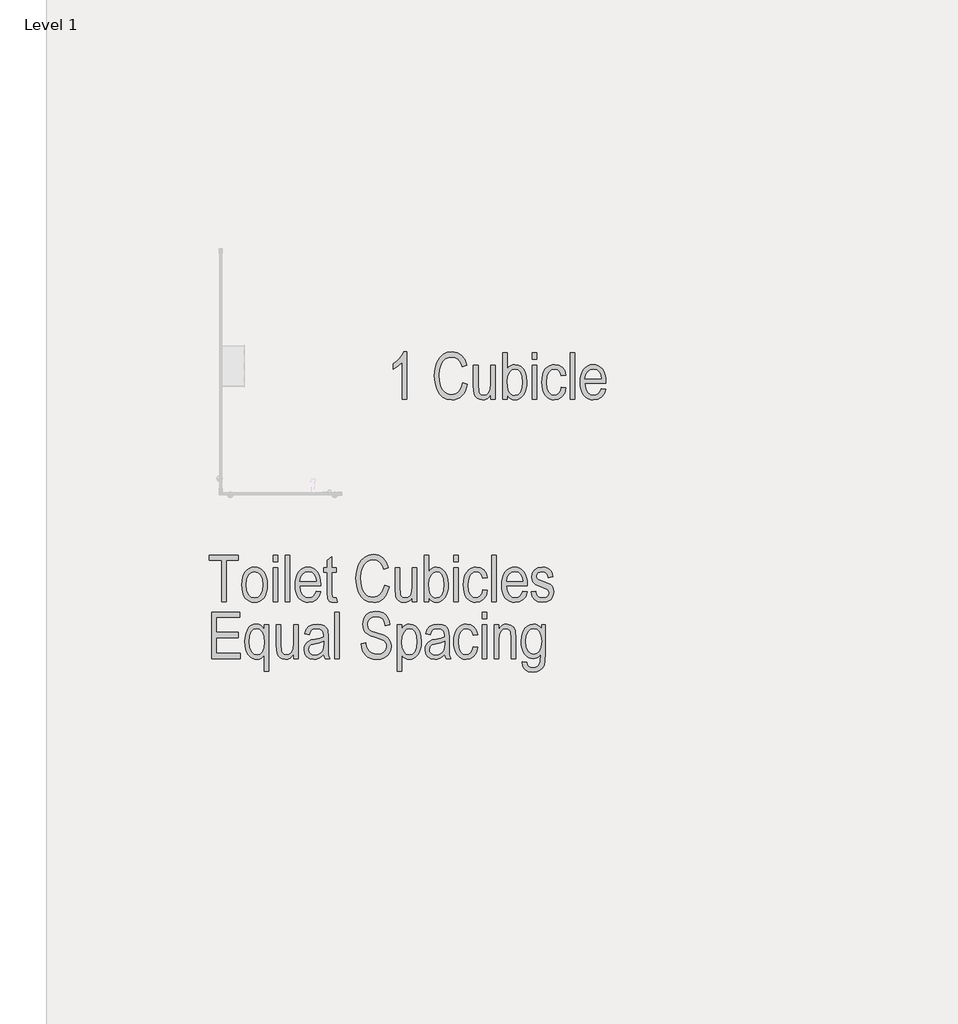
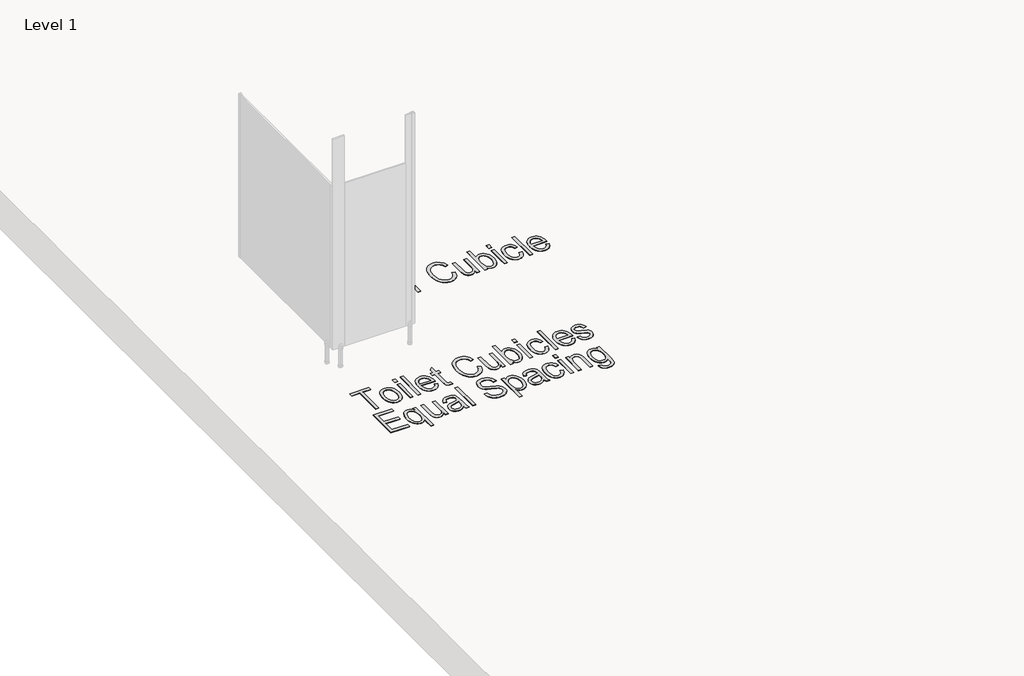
# One storey, part 12 of 21: 2 proxies.
"""IFC4 building model written with IfcOpenShell, lengths in millimetres."""

from ifc_helpers import new_model, si_unit, origin, origin_with_axes, place, context, project, spatial, polyline, outline, extrude, element, save

model = new_model("IFC4")

# Units and contexts
model_context = context("Model", 3, world=origin())
ifc_project = project(units=[si_unit("LENGTHUNIT", "METRE", prefix="MILLI")], contexts=[model_context])

# Site, building, storey
site = spatial("IfcSite", under=ifc_project)
building = spatial("IfcBuilding", under=site)
storey = spatial("IfcBuildingStorey", under=building, Name="Level 1", Elevation=0.0)

# Proxies
placement = place(None, origin())
element("IfcBuildingElementProxy", 1, Name="Arial Narrow-300mm", ObjectType="Arial Narrow-300mm", at=placement, inside=storey, context=model_context, shape_type="SweptSolid", body=[
    extrude(outline(polyline([(-26888.9565519, 22468.5008677), (-26888.9565519, 22739.2227277), (-26967.712002, 22739.2227277), (-26967.712002, 22773.6782371), (-26780.6678079, 22773.6782371), (-26780.6678079, 22739.2227277), (-26859.4232581, 22739.2227277), (-26859.4232581, 22468.5008677), (-26888.9565519, 22468.5008677)])), origin_with_axes(), (0.0, 0.0, 1.0), 5.0),
    extrude(outline(polyline([(-26756.0567297, 22579.2507195), (-26754.5762196, 22606.1426486), (-26750.1346891, 22629.5207694), (-26742.7321382, 22649.385082), (-26732.368567, 22665.7355864), (-26719.736162, 22678.5049866), (-26705.5271099, 22687.6259868), (-26689.7414105, 22693.0985869), (-26672.3790639, 22694.9227869), (-26655.2666737, 22693.0985869), (-26639.6155661, 22687.6259868), (-26625.4257414, 22678.5049866), (-26612.6971994, 22665.7355864), (-26602.1990363, 22649.5292876), (-26594.7003485, 22630.0975916), (-26590.2011357, 22607.4404984), (-26588.7013982, 22581.5580081), (-26590.174698, 22553.6566403), (-26594.5945977, 22529.5574917), (-26601.9610972, 22509.2605625), (-26612.2741965, 22492.7658526), (-26624.8705501, 22479.9964524), (-26639.0868125, 22470.8754522), (-26654.9229838, 22465.4028521), (-26672.3790639, 22463.5786521), (-26689.5851878, 22465.407659), (-26705.2867673, 22470.8946796), (-26719.4838023, 22480.039714), (-26732.176293, 22492.8427622), (-26742.623984, 22509.2173009), (-26750.0866205, 22529.0768066), (-26754.5642024, 22552.4212795), (-26756.0567297, 22579.2507195)]), holes=[polyline([(-26726.5234359, 22579.3276291), (-26722.5722042, 22541.2958224), (-26710.7185092, 22514.4159104), (-26693.019683, 22498.437937), (-26671.5330581, 22493.1119459), (-26651.1712364, 22498.4860056), (-26633.9242543, 22514.6081845), (-26622.1570825, 22541.536165), (-26618.234692, 22579.3276291), (-26622.1859237, 22617.2440714), (-26634.0396187, 22644.0855286), (-26651.7384449, 22660.063502), (-26673.2250698, 22665.3894931), (-26693.731097, 22660.0346609), (-26710.949238, 22643.9701642), (-26722.6298865, 22617.0998659), (-26726.5234359, 22579.3276291)])]), origin_with_axes(), (0.0, 0.0, 1.0), 5.0),
    extrude(outline(polyline([(-26549.3236731, 22468.5008677), (-26549.3236731, 22690.0005713), (-26519.7903793, 22690.0005713), (-26519.7903793, 22468.5008677), (-26549.3236731, 22468.5008677)])), origin_with_axes(), (0.0, 0.0, 1.0), 5.0),
    extrude(outline(polyline([(-26549.3236731, 22729.3782964), (-26549.3236731, 22773.6782371), (-26519.7903793, 22773.6782371), (-26519.7903793, 22729.3782964), (-26549.3236731, 22729.3782964)])), origin_with_axes(), (0.0, 0.0, 1.0), 5.0),
    extrude(outline(polyline([(-26470.5682229, 22468.5008677), (-26470.5682229, 22773.6782371), (-26441.0349291, 22773.6782371), (-26441.0349291, 22468.5008677), (-26470.5682229, 22468.5008677)])), origin_with_axes(), (0.0, 0.0, 1.0), 5.0),
    extrude(outline(polyline([(-26268.7573819, 22537.4118866), (-26239.2240881, 22532.489671), (-26250.4336651, 22502.5333743), (-26268.0651953, 22480.9602261), (-26291.4072648, 22467.9240456), (-26319.7484595, 22463.5786521), (-26338.2404161, 22465.407659), (-26354.8769281, 22470.8946796), (-26369.6579955, 22480.039714), (-26382.5836184, 22492.8427622), (-26393.0817815, 22509.1019364), (-26400.5804694, 22528.6153489), (-26405.0796821, 22551.3829996), (-26406.5794197, 22577.4048887), (-26405.0724718, 22604.3544999), (-26400.5516282, 22627.9056674), (-26393.016889, 22648.0583911), (-26382.468254, 22664.812671), (-26369.6123305, 22677.9858467), (-26355.1557255, 22687.3952579), (-26339.098439, 22693.0409047), (-26321.4404711, 22694.9227869), (-26304.5227583, 22693.1057972), (-26289.0711351, 22687.6548279), (-26275.0856015, 22678.5698791), (-26262.5661575, 22665.8509508), (-26252.2530583, 22649.6903171), (-26244.8865588, 22630.2802519), (-26240.4666591, 22607.6207553), (-26238.9933592, 22581.7118273), (-26239.2240881, 22571.8673961), (-26377.0461258, 22571.8673961), (-26371.4990196, 22537.6041607), (-26358.8570009, 22512.9546277), (-26340.8889911, 22498.0726163), (-26319.3639114, 22493.1119459), (-26302.5591596, 22495.8806922), (-26288.523154, 22504.1869311), (-26277.2558948, 22518.0306626), (-26268.7573819, 22537.4118866)]), holes=[polyline([(-26375.0464757, 22601.4006899), (-26268.7573819, 22601.4006899), (-26273.0643206, 22626.6654998), (-26281.6781979, 22644.6238959), (-26299.3289555, 22660.1980938), (-26321.2097422, 22665.3894931), (-26341.3023803, 22661.063327), (-26358.2032691, 22648.0848288), (-26370.0665779, 22627.7614619), (-26375.0464757, 22601.4006899)])]), origin_with_axes(), (0.0, 0.0, 1.0), 5.0),
    extrude(outline(polyline([(-26135.8575597, 22493.1119459), (-26130.9353441, 22463.5786521), (-26153.2391337, 22463.5786521), (-26167.2751392, 22465.1841404), (-26178.3116696, 22470.0006053), (-26186.3487248, 22477.6050439), (-26191.3863049, 22487.5744533), (-26194.9241473, 22531.9513036), (-26194.9241473, 22660.4672775), (-26219.5352255, 22660.4672775), (-26219.5352255, 22690.0005713), (-26194.9241473, 22690.0005713), (-26194.9241473, 22739.2227277), (-26165.3908535, 22763.8338058), (-26165.3908535, 22690.0005713), (-26135.8575597, 22690.0005713), (-26135.8575597, 22660.4672775), (-26165.3908535, 22660.4672775), (-26165.3908535, 22525.1832571), (-26162.7759265, 22500.9567271), (-26157.4307079, 22495.0731412), (-26148.7783758, 22493.1119459), (-26135.8575597, 22493.1119459)])), origin_with_axes(), (0.0, 0.0, 1.0), 5.0),
    extrude(outline(polyline([(-25820.8357591, 22576.7896117), (-25791.3024653, 22566.9451804), (-25806.1267944, 22521.4819817), (-25816.5816958, 22503.7038425), (-25829.0650884, 22489.2280101), (-25843.2981748, 22478.006416), (-25859.0021577, 22469.9909916), (-25876.177037, 22465.181737), (-25894.8228129, 22463.5786521), (-25926.3557568, 22467.8086812), (-25952.966485, 22480.4987683), (-25974.9241813, 22502.542988), (-25992.4980294, 22534.8354144), (-26004.0344723, 22575.6263537), (-26007.8799532, 22623.1661121), (-26004.044086, 22669.5906811), (-25992.5364842, 22708.2666059), (-25974.481951, 22738.8093384), (-25951.0052897, 22760.8343307), (-25923.2889857, 22774.1589222), (-25892.5155243, 22778.6004527), (-25859.636662, 22772.9764368), (-25831.756925, 22756.1043891), (-25810.1837768, 22728.3304028), (-25796.2246809, 22690.0005713), (-25825.7579747, 22680.15614), (-25836.3426611, 22708.1512415), (-25851.1766039, 22728.1477425), (-25870.2598032, 22740.1456431), (-25893.5922589, 22744.1449433), (-25917.270808, 22740.9531941), (-25937.5461064, 22731.3779465), (-25954.2547212, 22715.0442661), (-25967.2332194, 22691.5772185), (-25975.5682994, 22660.9575763), (-25978.3466594, 22623.1661121), (-25976.9334452, 22593.8539335), (-25972.6938024, 22568.444918), (-25965.6277311, 22546.9390657), (-25955.7352313, 22529.3363766), (-25943.501795, 22515.6416575), (-25929.4129141, 22505.8597153), (-25913.4685887, 22499.99055), (-25895.6688187, 22498.0341615), (-25869.8175729, 22502.9179224), (-25847.7925807, 22517.5692048), (-25830.9974425, 22542.1418282), (-25820.8357591, 22576.7896117)])), origin_with_axes(), (0.0, 0.0, 1.0), 5.0),
    extrude(outline(polyline([(-25638.7137806, 22468.5008677), (-25638.7137806, 22498.4187096), (-25649.6734013, 22483.2002187), (-25662.4019433, 22472.3078939), (-25676.8994066, 22465.7609625), (-25693.1657911, 22463.5786521), (-25711.9894204, 22466.4723765), (-25727.8520294, 22475.1535498), (-25739.84993, 22488.2666399), (-25747.0794342, 22504.4561147), (-25751.9247402, 22552.7938105), (-25751.9247402, 22690.0005713), (-25722.3914464, 22690.0005713), (-25722.3914464, 22565.406988), (-25719.0458779, 22518.9920328), (-25714.2678678, 22508.4265738), (-25706.6249744, 22500.1876309), (-25696.915135, 22494.8808671), (-25685.9362868, 22493.1119459), (-25666.3243339, 22497.7072957), (-25650.557862, 22511.4933449), (-25641.6748009, 22533.9509537), (-25638.7137806, 22569.6370171), (-25638.7137806, 22690.0005713), (-25609.1804868, 22690.0005713), (-25609.1804868, 22468.5008677), (-25638.7137806, 22468.5008677)])), origin_with_axes(), (0.0, 0.0, 1.0), 5.0),
    extrude(outline(polyline([(-25530.4250366, 22468.5008677), (-25559.9583304, 22468.5008677), (-25559.9583304, 22773.6782371), (-25530.4250366, 22773.6782371), (-25530.4250366, 22666.3893182), (-25519.8595777, 22678.9448135), (-25508.0058826, 22687.847102), (-25494.7870418, 22693.1538657), (-25480.1261456, 22694.9227869), (-25459.6393458, 22691.7406514), (-25441.0945138, 22682.1942449), (-25425.2799733, 22666.1874304), (-25412.984048, 22643.6240709), (-25405.0815846, 22615.0329199), (-25402.4474301, 22580.9427311), (-25403.9111163, 22554.4041056), (-25408.3021749, 22531.0860704), (-25415.6206058, 22510.9886255), (-25425.8664092, 22494.111771), (-25438.0637941, 22480.7535315), (-25451.2369699, 22471.2119318), (-25465.3859364, 22465.486972), (-25480.5106937, 22463.5786521), (-25495.4696147, 22465.5590748), (-25508.8134336, 22471.5003429), (-25520.4844683, 22481.3447741), (-25530.4250366, 22495.0346864), (-25530.4250366, 22468.5008677)]), holes=[polyline([(-25530.4250366, 22580.9427311), (-25528.8483894, 22550.419226), (-25524.1184478, 22528.6826448), (-25516.5043955, 22513.396858), (-25506.2754162, 22502.2257358), (-25494.1044689, 22495.3903934), (-25480.6645129, 22493.1119459), (-25462.6580483, 22498.5340741), (-25446.7858256, 22514.8004585), (-25435.6819994, 22541.8726445), (-25431.9807239, 22579.7121772), (-25435.5474075, 22618.0612362), (-25446.2474583, 22644.6623507), (-25462.1389084, 22660.2077075), (-25481.2797899, 22665.3894931), (-25499.3920052, 22659.967365), (-25515.4276609, 22643.7009805), (-25526.6756927, 22617.1671618), (-25530.4250366, 22580.9427311)])]), origin_with_axes(), (0.0, 0.0, 1.0), 5.0),
    extrude(outline(polyline([(-25367.9919207, 22468.5008677), (-25367.9919207, 22690.0005713), (-25338.4586269, 22690.0005713), (-25338.4586269, 22468.5008677), (-25367.9919207, 22468.5008677)])), origin_with_axes(), (0.0, 0.0, 1.0), 5.0),
    extrude(outline(polyline([(-25367.9919207, 22729.3782964), (-25367.9919207, 22773.6782371), (-25338.4586269, 22773.6782371), (-25338.4586269, 22729.3782964), (-25367.9919207, 22729.3782964)])), origin_with_axes(), (0.0, 0.0, 1.0), 5.0),
    extrude(outline(polyline([(-25176.0255109, 22547.2563179), (-25146.4922171, 22542.3341023), (-25155.5771659, 22508.5034835), (-25172.5261232, 22483.7674272), (-25195.4932583, 22468.6258459), (-25222.6327402, 22463.5786521), (-25239.6105387, 22465.407659), (-25255.0116899, 22470.8946796), (-25268.836194, 22480.039714), (-25281.0840509, 22492.8427622), (-25291.1111425, 22509.2317214), (-25298.2733508, 22529.1344888), (-25302.5706758, 22552.5510645), (-25304.0031174, 22579.4814484), (-25302.5274141, 22606.5223898), (-25298.1003041, 22629.9629997), (-25290.7217875, 22649.8032781), (-25280.3918643, 22666.0432249), (-25267.7450388, 22678.6780333), (-25253.4158153, 22687.7028964), (-25237.404194, 22693.1178143), (-25219.7101747, 22694.9227869), (-25193.4166986, 22690.6158483), (-25171.6032078, 22677.6950322), (-25155.5387111, 22656.1603388), (-25146.4922171, 22626.011768), (-25176.0255109, 22621.0895524), (-25182.3320997, 22640.518845), (-25192.0227117, 22654.3529628), (-25204.5397523, 22662.6303605), (-25219.3256266, 22665.3894931), (-25241.1198899, 22660.2846171), (-25258.8187161, 22644.9699892), (-25270.5570467, 22618.5419213), (-25274.4698236, 22580.0967253), (-25270.8262304, 22540.5267262), (-25259.8954507, 22513.6468143), (-25243.2733593, 22498.245663), (-25222.5558306, 22493.1119459), (-25206.0106487, 22496.4094458), (-25192.0611665, 22506.3019456), (-25181.7264364, 22523.1355385), (-25176.0255109, 22547.2563179)])), origin_with_axes(), (0.0, 0.0, 1.0), 5.0),
    extrude(outline(polyline([(-25116.9589233, 22468.5008677), (-25116.9589233, 22773.6782371), (-25087.4256295, 22773.6782371), (-25087.4256295, 22468.5008677), (-25116.9589233, 22468.5008677)])), origin_with_axes(), (0.0, 0.0, 1.0), 5.0),
    extrude(outline(polyline([(-24915.1480822, 22537.4118866), (-24885.6147884, 22532.489671), (-24896.8243654, 22502.5333743), (-24914.4558957, 22480.9602261), (-24937.7979651, 22467.9240456), (-24966.1391598, 22463.5786521), (-24984.6311164, 22465.407659), (-25001.2676285, 22470.8946796), (-25016.0486959, 22480.039714), (-25028.9743188, 22492.8427622), (-25039.4724818, 22509.1019364), (-25046.9711697, 22528.6153489), (-25051.4703824, 22551.3829996), (-25052.97012, 22577.4048887), (-25051.4631722, 22604.3544999), (-25046.9423286, 22627.9056674), (-25039.4075893, 22648.0583911), (-25028.8589544, 22664.812671), (-25016.0030308, 22677.9858467), (-25001.5464258, 22687.3952579), (-24985.4891394, 22693.0409047), (-24967.8311715, 22694.9227869), (-24950.9134586, 22693.1057972), (-24935.4618354, 22687.6548279), (-24921.4763019, 22678.5698791), (-24908.9568579, 22665.8509508), (-24898.6437586, 22649.6903171), (-24891.2772592, 22630.2802519), (-24886.8573595, 22607.6207553), (-24885.3840596, 22581.7118273), (-24885.6147884, 22571.8673961), (-25023.4368262, 22571.8673961), (-25017.8897199, 22537.6041607), (-25005.2477013, 22512.9546277), (-24987.2796914, 22498.0726163), (-24965.7546117, 22493.1119459), (-24948.9498599, 22495.8806922), (-24934.9138544, 22504.1869311), (-24923.6465952, 22518.0306626), (-24915.1480822, 22537.4118866)]), holes=[polyline([(-25021.4371761, 22601.4006899), (-24915.1480822, 22601.4006899), (-24919.4550209, 22626.6654998), (-24928.0688983, 22644.6238959), (-24945.7196559, 22660.1980938), (-24967.6004426, 22665.3894931), (-24987.6930806, 22661.063327), (-25004.5939695, 22648.0848288), (-25016.4572783, 22627.7614619), (-25021.4371761, 22601.4006899)])]), origin_with_axes(), (0.0, 0.0, 1.0), 5.0),
    extrude(outline(polyline([(-24861.0037103, 22532.489671), (-24831.4704164, 22537.4118866), (-24826.4328364, 22517.8383885), (-24816.7037695, 22504.0331118), (-24802.667764, 22495.8422374), (-24784.7093679, 22493.1119459), (-24766.9817007, 22495.5345989), (-24753.791701, 22502.8025579), (-24745.6008265, 22513.7814061), (-24742.870535, 22527.3367265), (-24745.0432318, 22538.7385776), (-24751.561322, 22547.2563179), (-24782.1713505, 22559.9464051), (-24830.0860433, 22579.2507195), (-24841.0745052, 22588.4125779), (-24849.2749933, 22600.2085908), (-24854.3798693, 22614.2349826), (-24856.0814946, 22630.0879779), (-24851.5726682, 22656.218021), (-24838.0461889, 22676.925936), (-24816.5403366, 22690.4235742), (-24788.0933912, 22694.9227869), (-24769.231307, 22693.048115), (-24752.7918759, 22687.4240991), (-24739.3423062, 22678.6275613), (-24729.4498065, 22667.235324), (-24722.5952366, 22651.8149453), (-24718.2594568, 22630.9339837), (-24747.7927507, 22626.011768), (-24751.8064714, 22643.2395228), (-24759.6945142, 22655.5450619), (-24771.4568791, 22662.9283853), (-24787.0935661, 22665.3894931), (-24804.4751401, 22663.293706), (-24816.7806792, 22657.0063446), (-24824.1063204, 22647.4503244), (-24826.5482008, 22635.5485608), (-24824.18323, 22624.0698002), (-24817.0883176, 22615.321331), (-24783.3249948, 22601.4006899), (-24735.0642087, 22582.1348302), (-24725.9311914, 22573.7324543), (-24719.0670078, 22562.7536062), (-24714.7696829, 22549.3424913), (-24713.3372412, 22533.6433153), (-24718.2690705, 22505.321348), (-24733.0645586, 22482.9598762), (-24756.3777869, 22468.4239581), (-24786.8628373, 22463.5786521), (-24815.4636019, 22467.8855908), (-24837.3540023, 22480.8064068), (-24852.5340384, 22502.3411002), (-24861.0037103, 22532.489671)])), origin_with_axes(), (0.0, 0.0, 1.0), 5.0),
    extrude(outline(polyline([(-26952.9453551, 22095.3986553), (-26952.9453551, 22400.5760247), (-26770.8233766, 22400.5760247), (-26770.8233766, 22366.1205153), (-26923.4120613, 22366.1205153), (-26923.4120613, 22267.6762026), (-26780.6678079, 22267.6762026), (-26780.6678079, 22233.2206931), (-26923.4120613, 22233.2206931), (-26923.4120613, 22129.8541648), (-26765.901161, 22129.8541648), (-26765.901161, 22095.3986553), (-26952.9453551, 22095.3986553)])), origin_with_axes(), (0.0, 0.0, 1.0), 5.0),
    extrude(outline(polyline([(-26608.3902607, 22011.7209895), (-26608.3902607, 22117.7793545), (-26617.2252532, 22106.7716653), (-26628.9635839, 22098.0520372), (-26642.1631973, 22092.3703391), (-26655.3820381, 22090.4764397), (-26671.2855053, 22092.403987), (-26686.0785899, 22098.186629), (-26699.7612918, 22107.8243657), (-26712.3336112, 22121.317197), (-26722.8485982, 22138.3142229), (-26730.3593032, 22158.4645431), (-26734.8657262, 22181.7681578), (-26736.3678672, 22208.2250668), (-26731.4264242, 22252.8999419), (-26716.602095, 22289.40317), (-26705.685736, 22303.5857845), (-26692.7024308, 22313.7162234), (-26677.6521797, 22319.7944868), (-26660.5349826, 22321.8205745), (-26644.7685106, 22319.6574915), (-26630.8478695, 22313.1682424), (-26618.7346045, 22302.3528272), (-26608.3902607, 22287.2112459), (-26608.3902607, 22316.8983589), (-26578.8569669, 22316.8983589), (-26578.8569669, 22011.7209895), (-26608.3902607, 22011.7209895)]), holes=[polyline([(-26706.8345734, 22206.1485071), (-26703.0756157, 22168.2224511), (-26691.7987428, 22141.3521529), (-26675.2920158, 22125.3453383), (-26655.8434958, 22120.0097335), (-26638.2792615, 22125.1338369), (-26622.8108143, 22140.506147), (-26611.9953991, 22166.0112995), (-26608.3902607, 22201.53393), (-26612.1780594, 22241.623069), (-26623.5414557, 22269.9065815), (-26640.1347061, 22286.6921059), (-26659.6120671, 22292.2872807), (-26677.3878029, 22287.0574266), (-26692.7216583, 22271.3678643), (-26703.3063446, 22244.6033168), (-26706.8345734, 22206.1485071)])]), origin_with_axes(), (0.0, 0.0, 1.0), 5.0),
    extrude(outline(polyline([(-26416.4238509, 22095.3986553), (-26416.4238509, 22125.3164972), (-26427.3834717, 22110.0980063), (-26440.1120137, 22099.2056815), (-26454.6094769, 22092.6587501), (-26470.8758614, 22090.4764397), (-26489.6994907, 22093.3701641), (-26505.5620997, 22102.0513374), (-26517.5600003, 22115.1644275), (-26524.7895045, 22131.3539023), (-26529.6348105, 22179.6915981), (-26529.6348105, 22316.8983589), (-26500.1015167, 22316.8983589), (-26500.1015167, 22192.3047756), (-26496.7559483, 22145.8898204), (-26491.9779382, 22135.3243614), (-26484.3350448, 22127.0854185), (-26474.6252053, 22121.7786547), (-26463.6463572, 22120.0097335), (-26444.0344043, 22124.6050833), (-26428.2679323, 22138.3911325), (-26419.3848713, 22160.8487413), (-26416.4238509, 22196.5348047), (-26416.4238509, 22316.8983589), (-26386.8905571, 22316.8983589), (-26386.8905571, 22095.3986553), (-26416.4238509, 22095.3986553)])), origin_with_axes(), (0.0, 0.0, 1.0), 5.0),
    extrude(outline(polyline([(-26219.5352255, 22122.932299), (-26235.1574919, 22108.7809291), (-26251.4142627, 22098.6288593), (-26268.3055379, 22092.5145446), (-26285.8313174, 22090.4764397), (-26311.1345821, 22094.764151), (-26330.746535, 22107.6272848), (-26343.3212578, 22127.7391502), (-26347.512832, 22153.7730564), (-26345.5035682, 22171.9044991), (-26339.4757768, 22187.8440177), (-26329.9678251, 22201.0628585), (-26317.5180805, 22211.0322679), (-26300.0019147, 22218.2906133), (-26275.2946995, 22223.3762618), (-26242.3581551, 22230.1827631), (-26219.5352255, 22238.1429087), (-26219.5352255, 22247.6027919), (-26221.6310127, 22266.7148323), (-26227.918374, 22279.1357358), (-26242.8388402, 22288.9993945), (-26264.0658951, 22292.2872807), (-26283.2932999, 22290.2203347), (-26296.9832122, 22284.0194967), (-26306.4623227, 22272.1081194), (-26313.0573226, 22252.9095556), (-26342.5906164, 22257.8317713), (-26332.8038673, 22286.7401744), (-26316.3644362, 22306.5540151), (-26292.3494076, 22318.0039347), (-26259.835866, 22321.8205745), (-26234.2441902, 22319.1383516), (-26214.8437387, 22311.0916826), (-26201.5479883, 22299.0841683), (-26194.2704156, 22284.5194092), (-26190.0019317, 22238.2198184), (-26190.0019317, 22188.1516562), (-26188.0022816, 22121.9709288), (-26180.1575004, 22095.3986553), (-26209.6907943, 22095.3986553), (-26215.9204734, 22108.0502877), (-26219.5352255, 22122.932299)]), holes=[polyline([(-26219.5352255, 22208.6096149), (-26241.6275137, 22200.5725597), (-26272.372134, 22193.842968), (-26300.8671479, 22186.1135513), (-26313.4803255, 22173.8080122), (-26317.9795382, 22155.465068), (-26315.403066, 22140.9387637), (-26307.6736492, 22129.6618907), (-26295.3873376, 22122.4227728), (-26279.1401805, 22120.0097335), (-26262.6238397, 22122.1920439), (-26247.6841462, 22128.7389753), (-26235.3209249, 22138.9294998), (-26226.5340009, 22152.0425899), (-26221.2849194, 22169.9529175), (-26219.5352255, 22194.5351546), (-26219.5352255, 22208.6096149)])]), origin_with_axes(), (0.0, 0.0, 1.0), 5.0),
    extrude(outline(polyline([(-26145.701991, 22095.3986553), (-26145.701991, 22400.5760247), (-26116.1686972, 22400.5760247), (-26116.1686972, 22095.3986553), (-26145.701991, 22095.3986553)])), origin_with_axes(), (0.0, 0.0, 1.0), 5.0),
    extrude(outline(polyline([(-25973.4244438, 22193.842968), (-25943.89115, 22198.7651837), (-25939.7476442, 22175.2404539), (-25932.3931619, 22157.5800825), (-25921.500837, 22144.2939458), (-25906.7438038, 22133.8919198), (-25889.0161366, 22127.1719418), (-25869.2119096, 22124.9319491), (-25842.5723402, 22128.5370875), (-25822.6431351, 22139.3525028), (-25810.2126179, 22155.9361394), (-25806.0691122, 22176.8459422), (-25807.5784635, 22189.5168019), (-25812.1065173, 22200.4571953), (-25819.6821148, 22209.6190537), (-25830.3340971, 22216.9543086), (-25882.9787315, 22235.7587105), (-25913.5599189, 22246.7183313), (-25933.3160773, 22257.4472232), (-25946.0638467, 22269.4931923), (-25955.6198669, 22284.4040447), (-25961.5899761, 22301.8144598), (-25963.5800125, 22321.3591168), (-25957.7541088, 22355.0455301), (-25950.4717293, 22369.3507193), (-25940.2763979, 22381.9638968), (-25927.6151518, 22392.2601721), (-25912.9350282, 22399.6146545), (-25896.2360271, 22404.0273439), (-25877.5181485, 22405.4982403), (-25852.0706782, 22402.8160174), (-25830.0264586, 22394.7693484), (-25811.9623118, 22381.7139406), (-25798.4550599, 22364.0055007), (-25789.8219551, 22342.2112374), (-25786.3802496, 22316.8983589), (-25815.9135435, 22311.9761433), (-25821.5760142, 22338.1542549), (-25833.6412107, 22356.5452676), (-25851.9937686, 22367.4183651), (-25876.5183235, 22371.0427309), (-25901.2543798, 22367.4952747), (-25919.3185266, 22356.8529061), (-25930.3646707, 22340.5769079), (-25934.0467187, 22320.1285629), (-25931.6625205, 22301.5741173), (-25924.5099259, 22287.7496132), (-25907.7820837, 22276.4631266), (-25876.5183235, 22265.6765524), (-25823.5275958, 22247.6797015), (-25803.0888644, 22234.3647237), (-25788.3798997, 22218.1079529), (-25779.4968387, 22198.6786603), (-25776.5358184, 22175.8461171), (-25779.5737483, 22152.5521162), (-25788.6875382, 22131.430812), (-25803.0215685, 22113.789668), (-25821.7202197, 22100.9361479), (-25844.7258096, 22093.0913667), (-25871.9806559, 22090.4764397), (-25893.7725159, 22092.2189233), (-25913.233053, 22097.4463739), (-25930.3622672, 22106.1587918), (-25945.1601587, 22118.3561767), (-25957.150849, 22133.5290025), (-25965.85846, 22151.167743), (-25971.2829916, 22171.2723982), (-25973.4244438, 22193.842968)])), origin_with_axes(), (0.0, 0.0, 1.0), 5.0),
    extrude(outline(polyline([(-25737.1580933, 22011.7209895), (-25737.1580933, 22316.8983589), (-25707.6247995, 22316.8983589), (-25707.6247995, 22287.9034324), (-25696.7517021, 22303.391107), (-25684.7441877, 22313.8604289), (-25671.2369359, 22319.8305381), (-25655.8646257, 22321.8205745), (-25635.6758506, 22318.638439), (-25617.5636353, 22309.0920325), (-25602.1528703, 22293.0659906), (-25590.0684464, 22270.4449488), (-25582.2525063, 22241.8730253), (-25579.647193, 22207.994338), (-25581.1373168, 22181.3884166), (-25585.6076885, 22158.0223128), (-25593.0583078, 22137.8960268), (-25603.489175, 22121.0095586), (-25615.9293059, 22107.651319), (-25629.4077167, 22098.1097194), (-25643.9244073, 22092.3847596), (-25659.4793778, 22090.4764397), (-25673.3134956, 22092.2261335), (-25686.2054705, 22097.475215), (-25697.7707545, 22105.9160458), (-25707.6247995, 22117.2409872), (-25707.6247995, 22011.7209895), (-25737.1580933, 22011.7209895)]), holes=[polyline([(-25707.6247995, 22204.148857), (-25704.0292748, 22166.6169628), (-25693.2427007, 22140.4676922), (-25677.3416369, 22125.1242232), (-25658.4026431, 22120.0097335), (-25639.992403, 22125.3068835), (-25623.9855885, 22141.1983336), (-25612.8817622, 22168.1647689), (-25609.1804868, 22206.6868744), (-25612.7760115, 22244.6417716), (-25623.5625856, 22271.2909547), (-25639.5213316, 22287.0381992), (-25658.633372, 22292.2872807), (-25676.3418118, 22286.6440374), (-25692.3966949, 22269.7143075), (-25703.8177733, 22242.0364582), (-25707.6247995, 22204.148857)])]), origin_with_axes(), (0.0, 0.0, 1.0), 5.0),
    extrude(outline(polyline([(-25427.0585083, 22122.932299), (-25442.6807747, 22108.7809291), (-25458.9375455, 22098.6288593), (-25475.8288206, 22092.5145446), (-25493.3546001, 22090.4764397), (-25518.6578649, 22094.764151), (-25538.2698178, 22107.6272848), (-25550.8445405, 22127.7391502), (-25555.0361148, 22153.7730564), (-25553.026851, 22171.9044991), (-25546.9990596, 22187.8440177), (-25537.4911079, 22201.0628585), (-25525.0413633, 22211.0322679), (-25507.5251975, 22218.2906133), (-25482.8179823, 22223.3762618), (-25449.8814378, 22230.1827631), (-25427.0585083, 22238.1429087), (-25427.0585083, 22247.6027919), (-25429.1542954, 22266.7148323), (-25435.4416568, 22279.1357358), (-25450.3621229, 22288.9993945), (-25471.5891779, 22292.2872807), (-25490.8165827, 22290.2203347), (-25504.5064949, 22284.0194967), (-25513.9856055, 22272.1081194), (-25520.5806054, 22252.9095556), (-25550.1138992, 22257.8317713), (-25540.3271501, 22286.7401744), (-25523.887719, 22306.5540151), (-25499.8726904, 22318.0039347), (-25467.3591488, 22321.8205745), (-25441.767473, 22319.1383516), (-25422.3670215, 22311.0916826), (-25409.0712711, 22299.0841683), (-25401.7936983, 22284.5194092), (-25397.5252145, 22238.2198184), (-25397.5252145, 22188.1516562), (-25395.5255644, 22121.9709288), (-25387.6807832, 22095.3986553), (-25417.214077, 22095.3986553), (-25423.4437562, 22108.0502877), (-25427.0585083, 22122.932299)]), holes=[polyline([(-25427.0585083, 22208.6096149), (-25449.1507964, 22200.5725597), (-25479.8954167, 22193.842968), (-25508.3904307, 22186.1135513), (-25521.0036083, 22173.8080122), (-25525.502821, 22155.465068), (-25522.9263487, 22140.9387637), (-25515.196932, 22129.6618907), (-25502.9106203, 22122.4227728), (-25486.6634632, 22120.0097335), (-25470.1471225, 22122.1920439), (-25455.2074289, 22128.7389753), (-25442.8442076, 22138.9294998), (-25434.0572836, 22152.0425899), (-25428.8082021, 22169.9529175), (-25427.0585083, 22194.5351546), (-25427.0585083, 22208.6096149)])]), origin_with_axes(), (0.0, 0.0, 1.0), 5.0),
    extrude(outline(polyline([(-25240.0143142, 22174.1541055), (-25210.4810203, 22169.2318899), (-25219.5659691, 22135.4012711), (-25236.5149265, 22110.6652148), (-25259.4820615, 22095.5236335), (-25286.6215434, 22090.4764397), (-25303.5993419, 22092.3054466), (-25319.0004932, 22097.7924672), (-25332.8249972, 22106.9375016), (-25345.0728541, 22119.7405498), (-25355.0999457, 22136.129509), (-25362.262154, 22156.0322764), (-25366.559479, 22179.4488521), (-25367.9919207, 22206.379236), (-25366.5162173, 22233.4201774), (-25362.0891074, 22256.8607873), (-25354.7105908, 22276.7010657), (-25344.3806675, 22292.9410125), (-25331.733842, 22305.5758209), (-25317.4046186, 22314.600684), (-25301.3929972, 22320.0156019), (-25283.6989779, 22321.8205745), (-25257.4055018, 22317.5136359), (-25235.592011, 22304.5928198), (-25219.5275143, 22283.0581264), (-25210.4810203, 22252.9095556), (-25240.0143142, 22247.98734), (-25246.3209029, 22267.4166326), (-25256.011515, 22281.2507504), (-25268.5285555, 22289.5281481), (-25283.3144298, 22292.2872807), (-25305.1086932, 22287.1824047), (-25322.8075193, 22271.8677768), (-25334.54585, 22245.4397089), (-25338.4586269, 22206.9945129), (-25334.8150336, 22167.4245138), (-25323.884254, 22140.5446019), (-25307.2621625, 22125.1434506), (-25286.5446338, 22120.0097335), (-25269.999452, 22123.3072334), (-25256.0499698, 22133.1997332), (-25245.7152397, 22150.0333261), (-25240.0143142, 22174.1541055)])), origin_with_axes(), (0.0, 0.0, 1.0), 5.0),
    extrude(outline(polyline([(-25180.9477265, 22356.276084), (-25180.9477265, 22400.5760247), (-25151.4144327, 22400.5760247), (-25151.4144327, 22356.276084), (-25180.9477265, 22356.276084)])), origin_with_axes(), (0.0, 0.0, 1.0), 5.0),
    extrude(outline(polyline([(-25180.9477265, 22095.3986553), (-25180.9477265, 22316.8983589), (-25151.4144327, 22316.8983589), (-25151.4144327, 22095.3986553), (-25180.9477265, 22095.3986553)])), origin_with_axes(), (0.0, 0.0, 1.0), 5.0),
    extrude(outline(polyline([(-25102.1922764, 22095.3986553), (-25102.1922764, 22316.8983589), (-25072.6589826, 22316.8983589), (-25072.6589826, 22288.2879805), (-25062.1415921, 22303.0065589), (-25049.5091872, 22313.4758808), (-25034.8194499, 22319.7344011), (-25018.1300625, 22321.8205745), (-24992.6345237, 22316.0908079), (-24973.7147573, 22301.0934321), (-24962.9858654, 22277.0207213), (-24959.448023, 22231.5286815), (-24959.448023, 22095.3986553), (-24988.9813168, 22095.3986553), (-24988.9813168, 22232.1439584), (-24993.0190718, 22268.3683891), (-24998.2008574, 22278.5204589), (-25005.6707042, 22286.0576016), (-25014.9767681, 22290.7298609), (-25025.6672052, 22292.2872807), (-25044.9522922, 22288.1053202), (-25059.8919858, 22275.5594385), (-25069.4672334, 22252.8614871), (-25072.6589826, 22218.2233173), (-25072.6589826, 22095.3986553), (-25102.1922764, 22095.3986553)])), origin_with_axes(), (0.0, 0.0, 1.0), 5.0),
    extrude(outline(polyline([(-24920.0702979, 22075.7097928), (-24890.5370041, 22070.7875772), (-24886.3454298, 22055.5690862), (-24877.9238265, 22044.8305806), (-24865.3491037, 22038.4566959), (-24848.6981712, 22036.3320677), (-24830.3936818, 22038.7258796), (-24816.2423118, 22045.9073153), (-24806.0902421, 22057.8186926), (-24799.7836533, 22074.4023293), (-24797.014907, 22122.932299), (-24807.5611385, 22110.9343984), (-24819.3571514, 22102.3205211), (-24832.4606278, 22097.1291218), (-24846.9292499, 22095.3986553), (-24862.3928903, 22097.1195081), (-24876.4817711, 22102.2820663), (-24889.1958926, 22110.8863299), (-24900.5352546, 22122.932299), (-24911.2353054, 22140.1167921), (-24918.8781988, 22159.9835081), (-24923.4639348, 22182.5324471), (-24924.9925135, 22207.7636091), (-24922.2526083, 22241.2000661), (-24914.0328928, 22270.1373104), (-24901.362033, 22293.2774921), (-24885.2686951, 22309.3227614), (-24866.3969973, 22318.6961213), (-24845.3910575, 22321.8205745), (-24829.8745418, 22319.9362889), (-24815.7808541, 22314.2834318), (-24803.1676765, 22304.8620035), (-24792.0926914, 22291.6720038), (-24792.0926914, 22316.8983589), (-24767.4816132, 22316.8983589), (-24767.4816132, 22126.2394127), (-24769.5485592, 22082.6316585), (-24775.7493973, 22053.636732), (-24786.6513358, 22034.2266669), (-24802.8215833, 22019.3734967), (-24823.539112, 22009.9424546), (-24848.0828942, 22006.7987739), (-24879.0294023, 22011.3652825), (-24901.8811729, 22025.0648085), (-24915.8306551, 22046.8590718), (-24920.0702979, 22075.7097928)]), holes=[polyline([(-24895.4592197, 22210.0708977), (-24891.7291032, 22171.6929977), (-24880.5387536, 22145.3129982), (-24863.9455032, 22130.0272114), (-24844.0066844, 22124.9319491), (-24824.0101834, 22129.9214607), (-24807.2438864, 22144.8899953), (-24795.8804901, 22170.7412411), (-24792.0926914, 22208.3788861), (-24795.9862408, 22245.4493226), (-24807.6668893, 22271.5985931), (-24824.9042577, 22287.1151088), (-24845.4679672, 22292.2872807), (-24864.1666184, 22287.1151088), (-24880.4233891, 22271.5985931), (-24891.7002621, 22245.8723255), (-24895.4592197, 22210.0708977)])]), origin_with_axes(), (0.0, 0.0, 1.0), 5.0),
])
element("IfcBuildingElementProxy", 2, Name="Arial Narrow-300mm", ObjectType="Arial Narrow-300mm", at=placement, inside=storey, context=model_context, shape_type="SweptSolid", body=[
    extrude(outline(polyline([(-25675.9687123, 23796.2300728), (-25705.5020061, 23796.2300728), (-25705.5020061, 24037.418639), (-25732.9587402, 24012.4230127), (-25764.5685937, 23993.1186982), (-25764.5685937, 24027.5742077), (-25741.6014586, 24044.2251403), (-25721.4607521, 24064.1831865), (-25705.5116198, 24085.5256058), (-25695.1192075, 24106.3296579), (-25675.9687123, 24106.3296579), (-25675.9687123, 23796.2300728)])), origin_with_axes(), (0.0, 0.0, 1.0), 5.0),
    extrude(outline(polyline([(-25306.8025396, 23904.5188168), (-25277.2692458, 23894.6743855), (-25292.0935749, 23849.2111868), (-25302.5484763, 23831.4330477), (-25315.0318689, 23816.9572152), (-25329.2649553, 23805.7356211), (-25344.9689382, 23797.7201967), (-25362.1438176, 23792.9109421), (-25380.7895934, 23791.3078572), (-25412.3225373, 23795.5378863), (-25438.9332656, 23808.2279735), (-25460.8909619, 23830.2721931), (-25478.4648099, 23862.5646195), (-25490.0012528, 23903.3555588), (-25493.8467338, 23950.8953173), (-25490.0108665, 23997.3198862), (-25478.5032647, 24035.995811), (-25460.4487316, 24066.5385436), (-25436.9720703, 24088.5635358), (-25409.2557662, 24101.8881273), (-25378.4823048, 24106.3296579), (-25345.6034426, 24100.7056419), (-25317.7237056, 24083.8335942), (-25296.1505574, 24056.0596079), (-25282.1914615, 24017.7297764), (-25311.7247553, 24007.8853452), (-25322.3094416, 24035.8804466), (-25337.1433844, 24055.8769476), (-25356.2265837, 24067.8748482), (-25379.5590395, 24071.8741484), (-25403.2375885, 24068.6823992), (-25423.5128869, 24059.1071516), (-25440.2215017, 24042.7734712), (-25453.2, 24019.3064236), (-25461.53508, 23988.6867814), (-25464.31344, 23950.8953173), (-25462.9002257, 23921.5831386), (-25458.6605829, 23896.1741231), (-25451.5945117, 23874.6682708), (-25441.7020119, 23857.0655817), (-25429.4685756, 23843.3708626), (-25415.3796947, 23833.5889204), (-25399.4353692, 23827.7197551), (-25381.6355992, 23825.7633667), (-25355.7843534, 23830.6471275), (-25333.7593612, 23845.29841), (-25316.9642231, 23869.8710333), (-25306.8025396, 23904.5188168)])), origin_with_axes(), (0.0, 0.0, 1.0), 5.0),
    extrude(outline(polyline([(-25124.6805611, 23796.2300728), (-25124.6805611, 23826.1479148), (-25135.6401819, 23810.9294238), (-25148.3687239, 23800.037099), (-25162.8661871, 23793.4901677), (-25179.1325716, 23791.3078572), (-25197.9562009, 23794.2015816), (-25213.8188099, 23802.8827549), (-25225.8167105, 23815.995845), (-25233.0462147, 23832.1853199), (-25237.8915207, 23880.5230156), (-25237.8915207, 24017.7297764), (-25208.3582269, 24017.7297764), (-25208.3582269, 23893.1361932), (-25205.0126585, 23846.7212379), (-25200.2346484, 23836.155779), (-25192.591755, 23827.916836), (-25182.8819155, 23822.6100723), (-25171.9030674, 23820.841151), (-25152.2911145, 23825.4365008), (-25136.5246425, 23839.22255), (-25127.6415815, 23861.6801589), (-25124.6805611, 23897.3662222), (-25124.6805611, 24017.7297764), (-25095.1472673, 24017.7297764), (-25095.1472673, 23796.2300728), (-25124.6805611, 23796.2300728)])), origin_with_axes(), (0.0, 0.0, 1.0), 5.0),
    extrude(outline(polyline([(-25016.3918172, 23796.2300728), (-25045.925111, 23796.2300728), (-25045.925111, 24101.4074422), (-25016.3918172, 24101.4074422), (-25016.3918172, 23994.1185233), (-25005.8263582, 24006.6740186), (-24993.9726631, 24015.5763071), (-24980.7538223, 24020.8830708), (-24966.0929261, 24022.6519921), (-24945.6061263, 24019.4698566), (-24927.0612944, 24009.9234501), (-24911.2467539, 23993.9166355), (-24898.9508285, 23971.353276), (-24891.0483651, 23942.762125), (-24888.4142107, 23908.6719363), (-24889.8778968, 23882.1333108), (-24894.2689554, 23858.8152755), (-24901.5873864, 23838.7178307), (-24911.8331897, 23821.8409761), (-24924.0305747, 23808.4827366), (-24937.2037504, 23798.9411369), (-24951.3527169, 23793.2161771), (-24966.4774742, 23791.3078572), (-24981.4363952, 23793.2882799), (-24994.7802141, 23799.229548), (-25006.4512489, 23809.0739793), (-25016.3918172, 23822.7638915), (-25016.3918172, 23796.2300728)]), holes=[polyline([(-25016.3918172, 23908.6719363), (-25014.81517, 23878.1484311), (-25010.0852284, 23856.4118499), (-25002.4711761, 23841.1260631), (-24992.2421967, 23829.9549409), (-24980.0712495, 23823.1195985), (-24966.6312935, 23820.841151), (-24948.6248289, 23826.2632792), (-24932.7526062, 23842.5296637), (-24921.6487799, 23869.6018497), (-24917.9475045, 23907.4413824), (-24921.5141881, 23945.7904413), (-24932.2142388, 23972.3915558), (-24948.1056889, 23987.9369126), (-24967.2465704, 23993.1186982), (-24985.3587858, 23987.6965701), (-25001.3944414, 23971.4301856), (-25012.6424732, 23944.8963669), (-25016.3918172, 23908.6719363)])]), origin_with_axes(), (0.0, 0.0, 1.0), 5.0),
    extrude(outline(polyline([(-24853.9587012, 24057.1075015), (-24853.9587012, 24101.4074422), (-24824.4254074, 24101.4074422), (-24824.4254074, 24057.1075015), (-24853.9587012, 24057.1075015)])), origin_with_axes(), (0.0, 0.0, 1.0), 5.0),
    extrude(outline(polyline([(-24853.9587012, 23796.2300728), (-24853.9587012, 24017.7297764), (-24824.4254074, 24017.7297764), (-24824.4254074, 23796.2300728), (-24853.9587012, 23796.2300728)])), origin_with_axes(), (0.0, 0.0, 1.0), 5.0),
    extrude(outline(polyline([(-24661.9922914, 23874.985523), (-24632.4589976, 23870.0633074), (-24641.5439464, 23836.2326886), (-24658.4929038, 23811.4966323), (-24681.4600388, 23796.355051), (-24708.5995207, 23791.3078572), (-24725.5773192, 23793.1368641), (-24740.9784705, 23798.6238847), (-24754.8029745, 23807.7689192), (-24767.0508314, 23820.5719674), (-24777.077923, 23836.9609265), (-24784.2401313, 23856.863694), (-24788.5374563, 23880.2802696), (-24789.969898, 23907.2106535), (-24788.4941946, 23934.251595), (-24784.0670847, 23957.6922049), (-24776.6885681, 23977.5324832), (-24766.3586448, 23993.77243), (-24753.7118193, 24006.4072384), (-24739.3825959, 24015.4321015), (-24723.3709745, 24020.8470194), (-24705.6769552, 24022.6519921), (-24679.3834791, 24018.3450534), (-24657.5699883, 24005.4242373), (-24641.5054916, 23983.8895439), (-24632.4589976, 23953.7409732), (-24661.9922914, 23948.8187575), (-24668.2988802, 23968.2480501), (-24677.9894923, 23982.0821679), (-24690.5065328, 23990.3595657), (-24705.2924071, 23993.1186982), (-24727.0866705, 23988.0138223), (-24744.7854966, 23972.6991943), (-24756.5238273, 23946.2711264), (-24760.4366041, 23907.8259304), (-24756.7930109, 23868.2559313), (-24745.8622313, 23841.3760194), (-24729.2401398, 23825.9748681), (-24708.5226111, 23820.841151), (-24691.9774293, 23824.1386509), (-24678.0279471, 23834.0311507), (-24667.693217, 23850.8647437), (-24661.9922914, 23874.985523)])), origin_with_axes(), (0.0, 0.0, 1.0), 5.0),
    extrude(outline(polyline([(-24602.9257038, 23796.2300728), (-24602.9257038, 24101.4074422), (-24573.39241, 24101.4074422), (-24573.39241, 23796.2300728), (-24602.9257038, 23796.2300728)])), origin_with_axes(), (0.0, 0.0, 1.0), 5.0),
    extrude(outline(polyline([(-24401.1148628, 23865.1410917), (-24371.581569, 23860.2188761), (-24382.791146, 23830.2625794), (-24400.4226762, 23808.6894312), (-24423.7647457, 23795.6532507), (-24452.1059404, 23791.3078572), (-24470.597897, 23793.1368641), (-24487.234409, 23798.6238847), (-24502.0154765, 23807.7689192), (-24514.9410993, 23820.5719674), (-24525.4392624, 23836.8311416), (-24532.9379503, 23856.344554), (-24537.437163, 23879.1122048), (-24538.9369006, 23905.1340938), (-24537.4299527, 23932.0837051), (-24532.9091092, 23955.6348725), (-24525.3743699, 23975.7875962), (-24514.8257349, 23992.5418761), (-24501.9698114, 24005.7150518), (-24487.5132064, 24015.1244631), (-24471.4559199, 24020.7701098), (-24453.797952, 24022.6519921), (-24436.8802392, 24020.8350023), (-24421.428616, 24015.384033), (-24407.4430824, 24006.2990843), (-24394.9236384, 23993.580156), (-24384.6105392, 23977.4195222), (-24377.2440397, 23958.009457), (-24372.82414, 23935.3499605), (-24371.3508401, 23909.4410325), (-24371.581569, 23899.5966012), (-24509.4036068, 23899.5966012), (-24503.8565005, 23865.3333658), (-24491.2144818, 23840.6838328), (-24473.246472, 23825.8018215), (-24451.7213923, 23820.841151), (-24434.9166405, 23823.6098973), (-24420.8806349, 23831.9161362), (-24409.6133757, 23845.7598677), (-24401.1148628, 23865.1410917)]), holes=[polyline([(-24507.4039567, 23929.129895), (-24401.1148628, 23929.129895), (-24405.4218015, 23954.3947049), (-24414.0356788, 23972.353101), (-24431.6864365, 23987.9272989), (-24453.5672231, 23993.1186982), (-24473.6598612, 23988.7925322), (-24490.56075, 23975.8140339), (-24502.4240588, 23955.490667), (-24507.4039567, 23929.129895)])]), origin_with_axes(), (0.0, 0.0, 1.0), 5.0),
])

save(model, "model.ifc")
